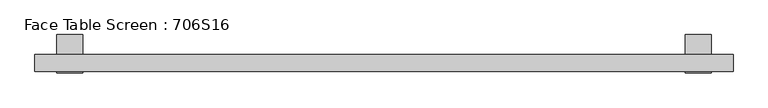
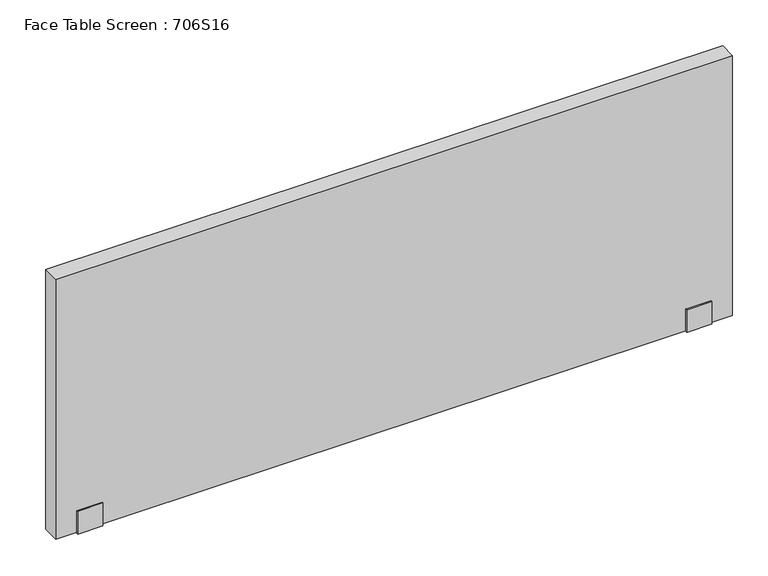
"""IFC4 building model written with IfcOpenShell, lengths in millimetres: furniture geometry, Face Table Screen : 706S16."""

from ifc_helpers import new_model, si_unit, frame, origin, place, context, project, spatial, polyline, outline, extrude, source, transform, mapped, element, save


def face_table_screen_706s16_38ff3cb7(model_context):
    return source(origin(), model_context, "Body", "SweptSolid", [
        extrude(outline(polyline([(-22.9999947, -156.0), (-22.9999997, -99.0433898), (-20.0, -99.0433898), (-20.0, -153.0), (20.0, -153.0), (20.0, -22.0), (65.0, -22.0), (65.0, -25.0433898), (23.0000062, -25.0433898), (22.9999947, -156.0), (-22.9999947, -156.0)])), frame((690.0, 0.0, 0.0), z_axis=(1.0, 0.0, 0.0), x_axis=(0.0, 1.0, 0.0)), (0.0, 0.0, 1.0), 60.0),
        extrude(outline(polyline([(-22.9999947, -156.0), (-22.9999997, -99.0433898), (-20.0, -99.0433898), (-20.0, -153.0), (20.0, -153.0), (20.0, -22.0), (65.0, -22.0), (65.0, -25.0433898), (23.0000062, -25.0433898), (22.9999947, -156.0), (-22.9999947, -156.0)])), frame((-750.0, 0.0, 0.0), z_axis=(1.0, 0.0, 0.0), x_axis=(0.0, 1.0, 0.0)), (0.0, 0.0, 1.0), 60.0),
        extrude(outline(polyline([(800.0, -20.0), (-800.0, -20.0), (-800.0, 20.0), (800.0, 20.0), (800.0, -20.0)])), frame((0.0, 0.0, -153.0), z_axis=(0.0, 0.0, 1.0), x_axis=(1.0, 0.0, 0.0)), (0.0, 0.0, 1.0), 650.0),
    ])


if __name__ == "__main__":
    model = new_model("IFC4")
    model_context = context("Model", 3, world=origin())
    ifc_project = project(units=[si_unit("LENGTHUNIT", "METRE", prefix="MILLI")], contexts=[model_context])
    site = spatial("IfcSite", under=ifc_project)
    building = spatial("IfcBuilding", under=site)
    placement = place(None, origin())
    face_table_screen_706s16_shape = face_table_screen_706s16_38ff3cb7(model_context)
    element("IfcFurniture", 1, ObjectType="Face Table Screen : 706S16", at=placement, inside=building, context=model_context, shape_type="MappedRepresentation", body=[
        mapped(face_table_screen_706s16_shape, transform((0.0, 0.0, 0.0), x_axis=(1.0, 0.0, 0.0), y_axis=(0.0, 1.0, 0.0), z_axis=(0.0, 0.0, 1.0))),
    ])
    save(model, "model.ifc")
